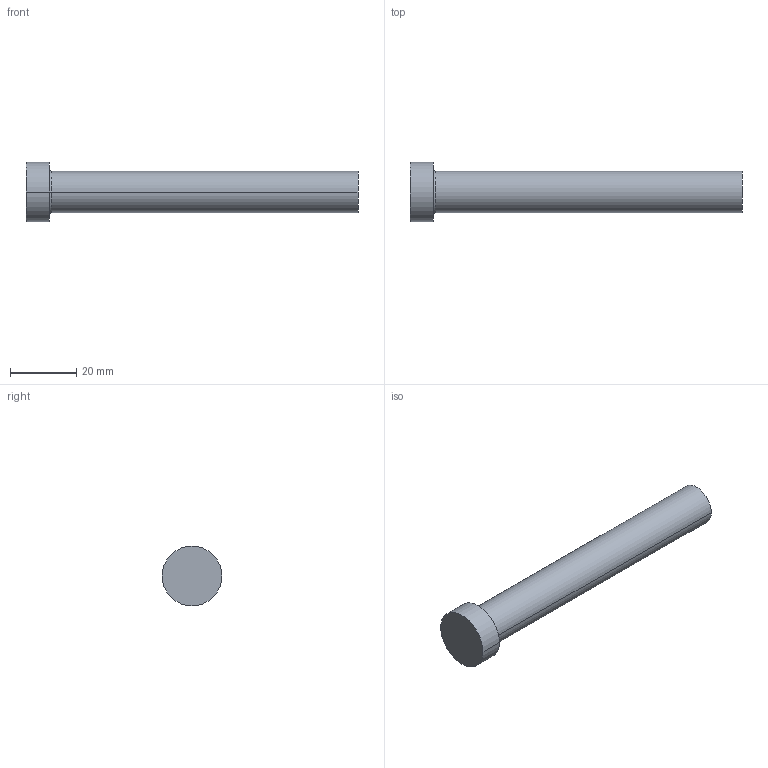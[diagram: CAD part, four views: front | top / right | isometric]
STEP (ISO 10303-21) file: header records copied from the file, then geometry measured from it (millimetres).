
FILE_DESCRIPTION (( 'STEP AP214' ), '1' );
FILE_NAME ('A-12,5x100.STEP', '2020-05-29T16:09:14', ( 'August' ), ( '' ), 'SwSTEP 2.0', 'SolidWorks 2018', '' );
FILE_SCHEMA (( 'AUTOMOTIVE_DESIGN' ));
Length unit declared in the file: millimetre
Products named in the file (1): A-12,5x100
Bounding box: 100 x 18 x 18 mm (x, y, z)
Volume: 13199.6 mm3; surface area: 4543.7 mm2
Topology: 1 solids, 1 shells, 9 faces, 16 edges, 10 vertices
Faces by surface type: cylinder 4, plane 3, torus 2
Entity records: 260 total; most frequent: DIRECTION 48, CARTESIAN_POINT 36, ORIENTED_EDGE 32, AXIS2_PLACEMENT_3D 22, EDGE_CURVE 16, CIRCLE 12, EDGE_LOOP 10, VERTEX_POINT 10
